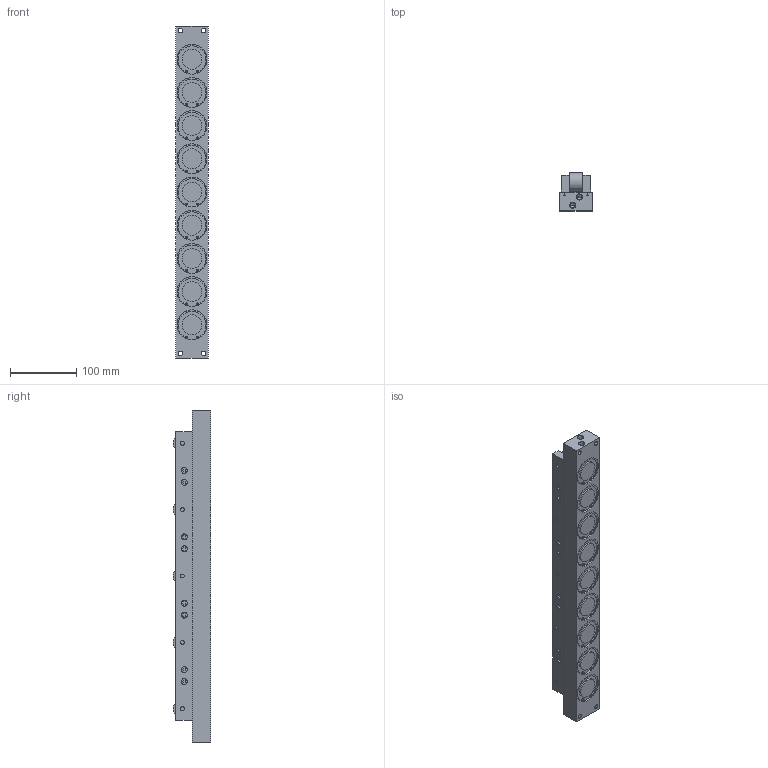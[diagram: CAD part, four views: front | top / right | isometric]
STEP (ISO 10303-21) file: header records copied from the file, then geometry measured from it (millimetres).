
FILE_DESCRIPTION (( 'STEP AP203' ), '1' );
FILE_NAME ('PVLR55SL-5.STEP', '2021-10-14T03:57:54', ( '' ), ( '' ), 'SwSTEP 2.0', 'SolidWorks 2013', '' );
FILE_SCHEMA (( 'CONFIG_CONTROL_DESIGN' ));
Length unit declared in the file: millimetre
Products named in the file (1): PVLR55SL-5
Bounding box: 49 x 57 x 500 mm (x, y, z)
Volume: 1013224.4 mm3; surface area: 196327.8 mm2
Topology: 2 solids, 2 shells, 661 faces, 1625 edges, 1056 vertices
Faces by surface type: plane 347, cylinder 306, cone 8
Entity records: 19836 total; most frequent: DIRECTION 3655, CARTESIAN_POINT 3339, ORIENTED_EDGE 3242, EDGE_CURVE 1621, AXIS2_PLACEMENT_3D 1372, VERTEX_POINT 1056, LINE 911, VECTOR 911
